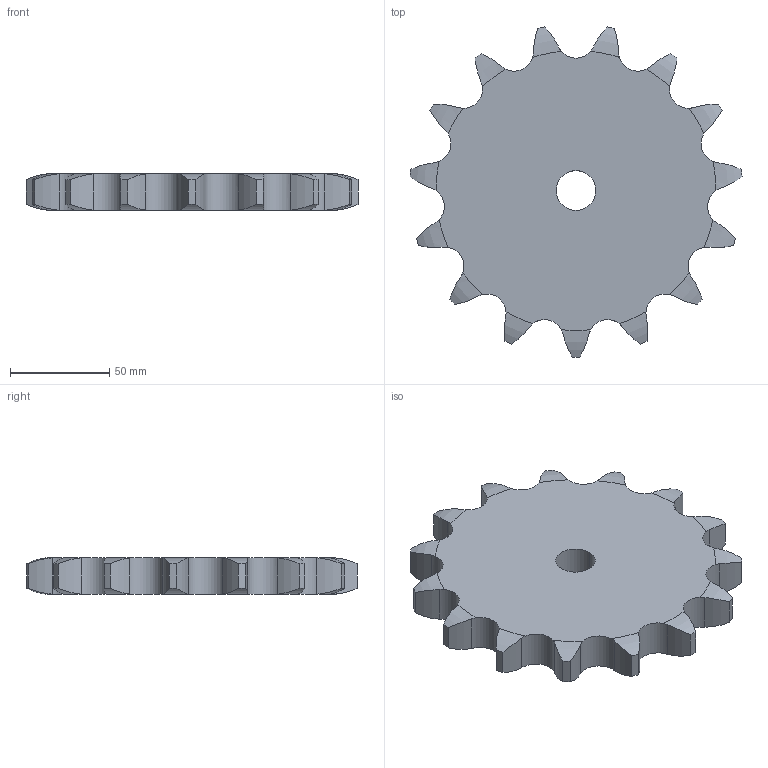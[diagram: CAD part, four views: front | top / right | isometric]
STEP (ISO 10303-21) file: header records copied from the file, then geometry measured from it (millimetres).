
FILE_DESCRIPTION((''),'2;1');
FILE_NAME('500-601-0015_PRT','2021-02-12T',('Brieden'),('Brieden'),'PRO/ENGINEER BY PARAMETRIC TECHNOLOGY CORPORATION, 2010160','PRO/ENGINEER BY PARAMETRIC TECHNOLOGY CORPORATION, 2010160','');
FILE_SCHEMA(('AUTOMOTIVE_DESIGN { 1 0 10303 214 1 1 1 1 }'));
Length unit declared in the file: millimetre
Products named in the file (1): 500-601-0015_PRT
Bounding box: 167.33 x 166.43 x 18.5 mm (x, y, z)
Volume: 306585.6 mm3; surface area: 47438.4 mm2
Topology: 1 solids, 1 shells, 94 faces, 276 edges, 184 vertices
Faces by surface type: cylinder 62, torus 30, plane 2
Entity records: 4558 total; most frequent: CARTESIAN_POINT 1299, ORIENTED_EDGE 552, DIRECTION 438, PRESENTATION_STYLE_ASSIGNMENT 277, STYLED_ITEM 277, CURVE_STYLE 276, EDGE_CURVE 276, AXIS2_PLACEMENT_3D 188
